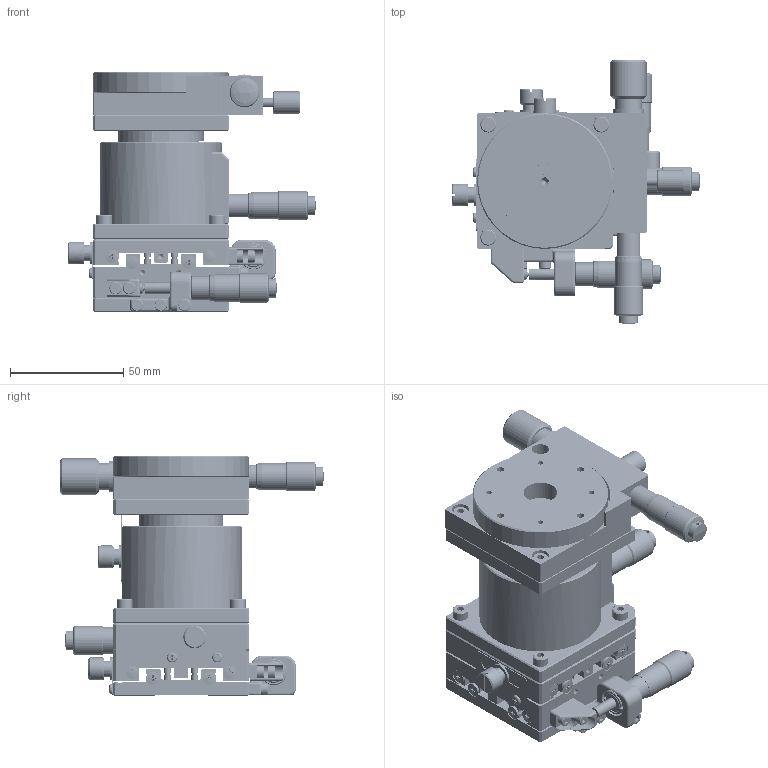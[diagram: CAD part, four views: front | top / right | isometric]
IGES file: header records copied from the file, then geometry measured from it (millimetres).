
Global section: file name: No Iges File Name specified; native system: AutoDesk Inventor R12.0; preprocessor: AutoDesk Inventor Iges Exporter R12.0; author: No Author specified; organization: No Organization specified; date: 20091019.115927; units: millimetre
Bounding box: 109.59 x 116.62 x 106 mm (x, y, z)
Volume: 298327.9 mm3; surface area: 136921.4 mm2
Topology: 5 solids, 108 shells, 3460 faces, 8342 edges, 5306 vertices
Faces by surface type: plane 1378, bspline 754, cylinder 663, revolution 339, cone 254, torus 36, sphere 36
